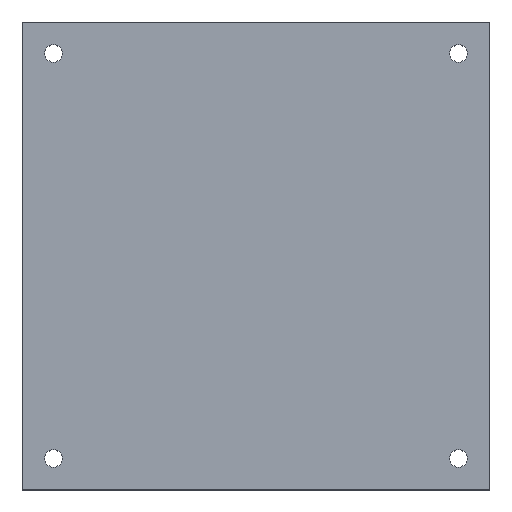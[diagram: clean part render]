
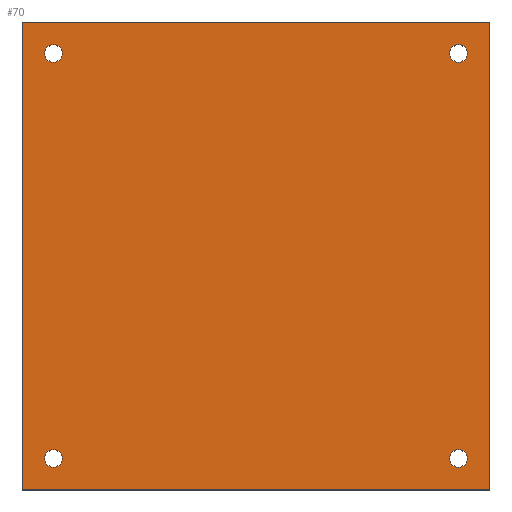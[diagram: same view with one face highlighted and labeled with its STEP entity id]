
A CAD part, top view. The second image highlights one B-rep face of the part: STEP entity #70.
In plain terms, the highlighted planar face has unit normal (0, 0, 1).
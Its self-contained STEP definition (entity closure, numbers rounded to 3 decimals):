
#15 = ORIENTED_EDGE ( 'NONE', *, *, #139, .T. ) ;
#21 = ORIENTED_EDGE ( 'NONE', *, *, #166, .T. ) ;
#23 = EDGE_LOOP ( 'NONE', ( #24, #15, #21, #34 ) ) ;
#24 = ORIENTED_EDGE ( 'NONE', *, *, #210, .T. ) ;
#26 = ORIENTED_EDGE ( 'NONE', *, *, #51, .F. ) ;
#27 = EDGE_CURVE ( 'NONE', #63, #64, #238, .T. ) ;
#29 = ORIENTED_EDGE ( 'NONE', *, *, #27, .F. ) ;
#30 = ORIENTED_EDGE ( 'NONE', *, *, #31, .F. ) ;
#31 = EDGE_CURVE ( 'NONE', #99, #90, #279, .T. ) ;
#33 = ORIENTED_EDGE ( 'NONE', *, *, #89, .F. ) ;
#34 = ORIENTED_EDGE ( 'NONE', *, *, #140, .T. ) ;
#35 = EDGE_LOOP ( 'NONE', ( #26, #29 ) ) ;
#37 = EDGE_LOOP ( 'NONE', ( #33, #30 ) ) ;
#51 = EDGE_CURVE ( 'NONE', #64, #63, #448, .T. ) ;
#60 = EDGE_CURVE ( 'NONE', #61, #62, #250, .T. ) ;
#61 = VERTEX_POINT ( 'NONE', #244 ) ;
#62 = VERTEX_POINT ( 'NONE', #243 ) ;
#63 = VERTEX_POINT ( 'NONE', #242 ) ;
#64 = VERTEX_POINT ( 'NONE', #241 ) ;
#70 = ADVANCED_FACE ( 'NONE', ( #438, #437, #436, #435, #434 ), #274, .T. ) ;
#71 = EDGE_LOOP ( 'NONE', ( #72, #134 ) ) ;
#72 = ORIENTED_EDGE ( 'NONE', *, *, #92, .F. ) ;
#73 = EDGE_LOOP ( 'NONE', ( #136, #137 ) ) ;
#89 = EDGE_CURVE ( 'NONE', #90, #99, #407, .T. ) ;
#90 = VERTEX_POINT ( 'NONE', #403 ) ;
#92 = EDGE_CURVE ( 'NONE', #100, #105, #402, .T. ) ;
#99 = VERTEX_POINT ( 'NONE', #397 ) ;
#100 = VERTEX_POINT ( 'NONE', #396 ) ;
#105 = VERTEX_POINT ( 'NONE', #426 ) ;
#134 = ORIENTED_EDGE ( 'NONE', *, *, #135, .F. ) ;
#135 = EDGE_CURVE ( 'NONE', #105, #100, #376, .T. ) ;
#136 = ORIENTED_EDGE ( 'NONE', *, *, #60, .F. ) ;
#137 = ORIENTED_EDGE ( 'NONE', *, *, #138, .F. ) ;
#138 = EDGE_CURVE ( 'NONE', #62, #61, #371, .T. ) ;
#139 = EDGE_CURVE ( 'NONE', #174, #167, #366, .T. ) ;
#140 = EDGE_CURVE ( 'NONE', #141, #199, #362, .T. ) ;
#141 = VERTEX_POINT ( 'NONE', #358 ) ;
#166 = EDGE_CURVE ( 'NONE', #167, #141, #569, .T. ) ;
#167 = VERTEX_POINT ( 'NONE', #565 ) ;
#174 = VERTEX_POINT ( 'NONE', #560 ) ;
#199 = VERTEX_POINT ( 'NONE', #479 ) ;
#210 = EDGE_CURVE ( 'NONE', #199, #174, #458, .T. ) ;
#235 = DIRECTION ( 'NONE',  ( 1., 0., 0. ) ) ;
#236 = DIRECTION ( 'NONE',  ( 0., 0., 1. ) ) ;
#237 = CARTESIAN_POINT ( 'NONE',  ( 29., 29., 7. ) ) ;
#238 = CIRCLE ( 'NONE', #314, 1.25 ) ;
#241 = CARTESIAN_POINT ( 'NONE',  ( 27.75, 29., 7. ) ) ;
#242 = CARTESIAN_POINT ( 'NONE',  ( 30.25, 29., 7. ) ) ;
#243 = CARTESIAN_POINT ( 'NONE',  ( -27.75, -29., 7. ) ) ;
#244 = CARTESIAN_POINT ( 'NONE',  ( -30.25, -29., 7. ) ) ;
#246 = DIRECTION ( 'NONE',  ( 1., 0., 0. ) ) ;
#247 = DIRECTION ( 'NONE',  ( 0., 0., 1. ) ) ;
#248 = CARTESIAN_POINT ( 'NONE',  ( -29., -29., 7. ) ) ;
#249 = AXIS2_PLACEMENT_3D ( 'NONE', #248, #247, #246 ) ;
#250 = CIRCLE ( 'NONE', #249, 1.25 ) ;
#270 = DIRECTION ( 'NONE',  ( 1., 0., 0. ) ) ;
#271 = DIRECTION ( 'NONE',  ( 0., 0., 1. ) ) ;
#272 = CARTESIAN_POINT ( 'NONE',  ( 33.5, -33.5, 7. ) ) ;
#273 = AXIS2_PLACEMENT_3D ( 'NONE', #272, #271, #270 ) ;
#274 = PLANE ( 'NONE',  #273 ) ;
#275 = DIRECTION ( 'NONE',  ( 1., 0., 0. ) ) ;
#276 = DIRECTION ( 'NONE',  ( 0., 0., 1. ) ) ;
#277 = CARTESIAN_POINT ( 'NONE',  ( 29., -29., 7. ) ) ;
#278 = AXIS2_PLACEMENT_3D ( 'NONE', #277, #276, #275 ) ;
#279 = CIRCLE ( 'NONE', #278, 1.25 ) ;
#312 = DIRECTION ( 'NONE',  ( 0., 0., 1. ) ) ;
#313 = CARTESIAN_POINT ( 'NONE',  ( 29., 29., 7. ) ) ;
#314 = AXIS2_PLACEMENT_3D ( 'NONE', #313, #312, #387 ) ;
#358 = CARTESIAN_POINT ( 'NONE',  ( -33.5, -33.5, 7. ) ) ;
#359 = DIRECTION ( 'NONE',  ( 1., 0., 0. ) ) ;
#360 = VECTOR ( 'NONE', #359, 1000. ) ;
#361 = CARTESIAN_POINT ( 'NONE',  ( -33.5, -33.5, 7. ) ) ;
#362 = LINE ( 'NONE', #361, #360 ) ;
#363 = DIRECTION ( 'NONE',  ( -1., 0., 0. ) ) ;
#364 = VECTOR ( 'NONE', #363, 1000. ) ;
#365 = CARTESIAN_POINT ( 'NONE',  ( -33.5, 33.5, 7. ) ) ;
#366 = LINE ( 'NONE', #365, #364 ) ;
#367 = DIRECTION ( 'NONE',  ( 1., 0., 0. ) ) ;
#368 = DIRECTION ( 'NONE',  ( 0., 0., 1. ) ) ;
#369 = CARTESIAN_POINT ( 'NONE',  ( -29., -29., 7. ) ) ;
#370 = AXIS2_PLACEMENT_3D ( 'NONE', #369, #368, #367 ) ;
#371 = CIRCLE ( 'NONE', #370, 1.25 ) ;
#372 = DIRECTION ( 'NONE',  ( 1., 0., 0. ) ) ;
#373 = DIRECTION ( 'NONE',  ( 0., 0., 1. ) ) ;
#374 = CARTESIAN_POINT ( 'NONE',  ( -29., 29., 7. ) ) ;
#375 = AXIS2_PLACEMENT_3D ( 'NONE', #374, #373, #372 ) ;
#376 = CIRCLE ( 'NONE', #375, 1.25 ) ;
#387 = DIRECTION ( 'NONE',  ( 1., 0., 0. ) ) ;
#396 = CARTESIAN_POINT ( 'NONE',  ( -30.25, 29., 7. ) ) ;
#397 = CARTESIAN_POINT ( 'NONE',  ( 30.25, -29., 7. ) ) ;
#398 = DIRECTION ( 'NONE',  ( 1., 0., 0. ) ) ;
#399 = DIRECTION ( 'NONE',  ( 0., 0., 1. ) ) ;
#400 = CARTESIAN_POINT ( 'NONE',  ( -29., 29., 7. ) ) ;
#401 = AXIS2_PLACEMENT_3D ( 'NONE', #400, #399, #398 ) ;
#402 = CIRCLE ( 'NONE', #401, 1.25 ) ;
#403 = CARTESIAN_POINT ( 'NONE',  ( 27.75, -29., 7. ) ) ;
#404 = DIRECTION ( 'NONE',  ( 1., 0., 0. ) ) ;
#405 = DIRECTION ( 'NONE',  ( 0., 0., 1. ) ) ;
#406 = AXIS2_PLACEMENT_3D ( 'NONE', #411, #405, #404 ) ;
#407 = CIRCLE ( 'NONE', #406, 1.25 ) ;
#411 = CARTESIAN_POINT ( 'NONE',  ( 29., -29., 7. ) ) ;
#426 = CARTESIAN_POINT ( 'NONE',  ( -27.75, 29., 7. ) ) ;
#434 = FACE_OUTER_BOUND ( 'NONE', #23, .T. ) ;
#435 = FACE_BOUND ( 'NONE', #35, .T. ) ;
#436 = FACE_BOUND ( 'NONE', #37, .T. ) ;
#437 = FACE_BOUND ( 'NONE', #73, .T. ) ;
#438 = FACE_BOUND ( 'NONE', #71, .T. ) ;
#447 = AXIS2_PLACEMENT_3D ( 'NONE', #237, #236, #235 ) ;
#448 = CIRCLE ( 'NONE', #447, 1.25 ) ;
#455 = DIRECTION ( 'NONE',  ( 0., 1., 0. ) ) ;
#456 = VECTOR ( 'NONE', #455, 1000. ) ;
#457 = CARTESIAN_POINT ( 'NONE',  ( 33.5, 33.5, 7. ) ) ;
#458 = LINE ( 'NONE', #457, #456 ) ;
#479 = CARTESIAN_POINT ( 'NONE',  ( 33.5, -33.5, 7. ) ) ;
#560 = CARTESIAN_POINT ( 'NONE',  ( 33.5, 33.5, 7. ) ) ;
#565 = CARTESIAN_POINT ( 'NONE',  ( -33.5, 33.5, 7. ) ) ;
#566 = DIRECTION ( 'NONE',  ( 0., -1., 0. ) ) ;
#567 = VECTOR ( 'NONE', #566, 1000. ) ;
#568 = CARTESIAN_POINT ( 'NONE',  ( -33.5, 33.5, 7. ) ) ;
#569 = LINE ( 'NONE', #568, #567 ) ;
